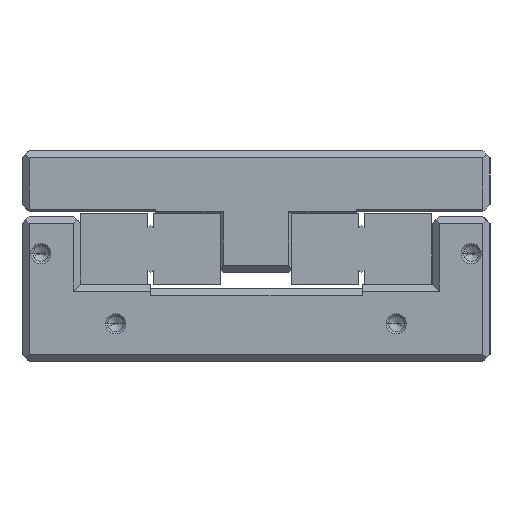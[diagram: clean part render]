
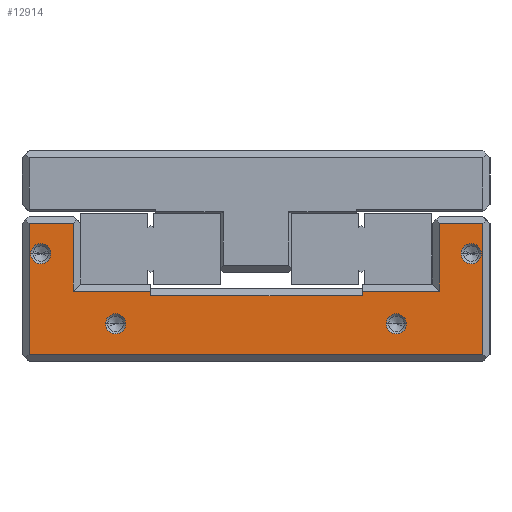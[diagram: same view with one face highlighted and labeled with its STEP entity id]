
A CAD part, left-side view. The second image highlights one B-rep face of the part: STEP entity #12914.
In plain terms, the highlighted planar face has unit normal (-1, 0, 0).
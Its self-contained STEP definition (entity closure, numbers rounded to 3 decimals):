
#9027=CARTESIAN_POINT('',(-155.,-46.,23.));
#9028=DIRECTION('',(1.,0.,0.));
#9029=DIRECTION('',(0.,-1.,0.));
#9030=AXIS2_PLACEMENT_3D('',#9027,#9028,#9029);
#9032=CARTESIAN_POINT('',(-155.,-46.,23.));
#9033=DIRECTION('',(1.,0.,0.));
#9034=DIRECTION('',(0.,1.,0.));
#9035=AXIS2_PLACEMENT_3D('',#9032,#9033,#9034);
#9037=CARTESIAN_POINT('',(-155.,-30.,8.));
#9038=DIRECTION('',(1.,0.,0.));
#9039=DIRECTION('',(0.,-1.,0.));
#9040=AXIS2_PLACEMENT_3D('',#9037,#9038,#9039);
#9042=CARTESIAN_POINT('',(-155.,-30.,8.));
#9043=DIRECTION('',(1.,0.,0.));
#9044=DIRECTION('',(0.,1.,0.));
#9045=AXIS2_PLACEMENT_3D('',#9042,#9043,#9044);
#9047=CARTESIAN_POINT('',(-155.,30.,8.));
#9048=DIRECTION('',(1.,0.,0.));
#9049=DIRECTION('',(0.,-1.,0.));
#9050=AXIS2_PLACEMENT_3D('',#9047,#9048,#9049);
#9052=CARTESIAN_POINT('',(-155.,30.,8.));
#9053=DIRECTION('',(1.,0.,0.));
#9054=DIRECTION('',(0.,1.,0.));
#9055=AXIS2_PLACEMENT_3D('',#9052,#9053,#9054);
#9057=CARTESIAN_POINT('',(-155.,46.,23.));
#9058=DIRECTION('',(1.,0.,0.));
#9059=DIRECTION('',(0.,1.,0.));
#9060=AXIS2_PLACEMENT_3D('',#9057,#9058,#9059);
#9062=CARTESIAN_POINT('',(-155.,46.,23.));
#9063=DIRECTION('',(1.,0.,0.));
#9064=DIRECTION('',(0.,-1.,0.));
#9065=AXIS2_PLACEMENT_3D('',#9062,#9063,#9064);
#9067=DIRECTION('',(0.,1.,0.));
#9068=VECTOR('',#9067,45.2);
#9069=CARTESIAN_POINT('',(-155.,-22.7,14.));
#9070=LINE('',#9069,#9068);
#9071=DIRECTION('',(0.,0.,1.));
#9072=VECTOR('',#9071,1.);
#9073=CARTESIAN_POINT('',(-155.,-22.7,14.));
#9074=LINE('',#9073,#9072);
#9075=DIRECTION('',(0.,1.,0.));
#9076=VECTOR('',#9075,16.5);
#9077=CARTESIAN_POINT('',(-155.,-39.2,15.));
#9078=LINE('',#9077,#9076);
#9079=DIRECTION('',(0.,0.,-1.));
#9080=VECTOR('',#9079,14.5);
#9081=CARTESIAN_POINT('',(-155.,-39.2,29.5));
#9082=LINE('',#9081,#9080);
#9083=DIRECTION('',(0.,-1.,0.));
#9084=VECTOR('',#9083,9.3);
#9085=CARTESIAN_POINT('',(-155.,-39.2,29.5));
#9086=LINE('',#9085,#9084);
#9087=DIRECTION('',(0.,0.,-1.));
#9088=VECTOR('',#9087,28.);
#9089=CARTESIAN_POINT('',(-155.,-48.5,29.5));
#9090=LINE('',#9089,#9088);
#9091=DIRECTION('',(0.,1.,0.));
#9092=VECTOR('',#9091,97.);
#9093=CARTESIAN_POINT('',(-155.,-48.5,1.5));
#9094=LINE('',#9093,#9092);
#9095=DIRECTION('',(0.,0.,-1.));
#9096=VECTOR('',#9095,28.);
#9097=CARTESIAN_POINT('',(-155.,48.5,29.5));
#9098=LINE('',#9097,#9096);
#9099=DIRECTION('',(0.,-1.,0.));
#9100=VECTOR('',#9099,9.5);
#9101=CARTESIAN_POINT('',(-155.,48.5,29.5));
#9102=LINE('',#9101,#9100);
#9103=DIRECTION('',(0.,0.,1.));
#9104=VECTOR('',#9103,14.5);
#9105=CARTESIAN_POINT('',(-155.,39.,15.));
#9106=LINE('',#9105,#9104);
#9107=DIRECTION('',(0.,1.,0.));
#9108=VECTOR('',#9107,16.5);
#9109=CARTESIAN_POINT('',(-155.,22.5,15.));
#9110=LINE('',#9109,#9108);
#9111=DIRECTION('',(0.,0.,-1.));
#9112=VECTOR('',#9111,1.);
#9113=CARTESIAN_POINT('',(-155.,22.5,15.));
#9114=LINE('',#9113,#9112);
#12030=CARTESIAN_POINT('',(-155.,-48.15,23.));
#12031=CARTESIAN_POINT('',(-155.,-43.85,23.));
#12032=VERTEX_POINT('',#12030);
#12033=VERTEX_POINT('',#12031);
#12038=CARTESIAN_POINT('',(-155.,-32.15,8.));
#12039=CARTESIAN_POINT('',(-155.,-27.85,8.));
#12040=VERTEX_POINT('',#12038);
#12041=VERTEX_POINT('',#12039);
#12046=CARTESIAN_POINT('',(-155.,27.85,8.));
#12047=CARTESIAN_POINT('',(-155.,32.15,8.));
#12048=VERTEX_POINT('',#12046);
#12049=VERTEX_POINT('',#12047);
#12054=CARTESIAN_POINT('',(-155.,48.15,23.));
#12055=CARTESIAN_POINT('',(-155.,43.85,23.));
#12056=VERTEX_POINT('',#12054);
#12057=VERTEX_POINT('',#12055);
#12118=CARTESIAN_POINT('',(-155.,-22.7,14.));
#12119=CARTESIAN_POINT('',(-155.,22.5,14.));
#12120=VERTEX_POINT('',#12118);
#12121=VERTEX_POINT('',#12119);
#12122=CARTESIAN_POINT('',(-155.,-22.7,15.));
#12123=VERTEX_POINT('',#12122);
#12124=CARTESIAN_POINT('',(-155.,22.5,15.));
#12125=VERTEX_POINT('',#12124);
#12126=CARTESIAN_POINT('',(-155.,-48.5,1.5));
#12127=CARTESIAN_POINT('',(-155.,48.5,1.5));
#12128=VERTEX_POINT('',#12126);
#12129=VERTEX_POINT('',#12127);
#12134=CARTESIAN_POINT('',(-155.,-39.2,29.5));
#12135=CARTESIAN_POINT('',(-155.,-48.5,29.5));
#12136=VERTEX_POINT('',#12134);
#12137=VERTEX_POINT('',#12135);
#12146=CARTESIAN_POINT('',(-155.,-39.2,15.));
#12147=VERTEX_POINT('',#12146);
#12150=CARTESIAN_POINT('',(-155.,39.,15.));
#12151=VERTEX_POINT('',#12150);
#12156=CARTESIAN_POINT('',(-155.,39.,29.5));
#12157=VERTEX_POINT('',#12156);
#12160=CARTESIAN_POINT('',(-155.,48.5,29.5));
#12161=VERTEX_POINT('',#12160);
#12860=CARTESIAN_POINT('',(-155.,50.,0.));
#12861=DIRECTION('',(-1.,0.,0.));
#12862=DIRECTION('',(0.,-1.,0.));
#12863=AXIS2_PLACEMENT_3D('',#12860,#12861,#12862);
#12864=PLANE('',#12863);
#12866=ORIENTED_EDGE('',*,*,#12865,.F.);
#12868=ORIENTED_EDGE('',*,*,#12867,.T.);
#12870=ORIENTED_EDGE('',*,*,#12869,.F.);
#12872=ORIENTED_EDGE('',*,*,#12871,.F.);
#12874=ORIENTED_EDGE('',*,*,#12873,.T.);
#12876=ORIENTED_EDGE('',*,*,#12875,.T.);
#12877=ORIENTED_EDGE('',*,*,#12846,.T.);
#12879=ORIENTED_EDGE('',*,*,#12878,.F.);
#12881=ORIENTED_EDGE('',*,*,#12880,.T.);
#12883=ORIENTED_EDGE('',*,*,#12882,.F.);
#12885=ORIENTED_EDGE('',*,*,#12884,.F.);
#12887=ORIENTED_EDGE('',*,*,#12886,.T.);
#12888=EDGE_LOOP('',(#12866,#12868,#12870,#12872,#12874,#12876,#12877,#12879,
#12881,#12883,#12885,#12887));
#12889=FACE_OUTER_BOUND('',#12888,.F.);
#12891=ORIENTED_EDGE('',*,*,#12890,.F.);
#12893=ORIENTED_EDGE('',*,*,#12892,.F.);
#12894=EDGE_LOOP('',(#12891,#12893));
#12895=FACE_BOUND('',#12894,.F.);
#12897=ORIENTED_EDGE('',*,*,#12896,.F.);
#12899=ORIENTED_EDGE('',*,*,#12898,.F.);
#12900=EDGE_LOOP('',(#12897,#12899));
#12901=FACE_BOUND('',#12900,.F.);
#12903=ORIENTED_EDGE('',*,*,#12902,.F.);
#12905=ORIENTED_EDGE('',*,*,#12904,.F.);
#12906=EDGE_LOOP('',(#12903,#12905));
#12907=FACE_BOUND('',#12906,.F.);
#12909=ORIENTED_EDGE('',*,*,#12908,.F.);
#12911=ORIENTED_EDGE('',*,*,#12910,.F.);
#12912=EDGE_LOOP('',(#12909,#12911));
#12913=FACE_BOUND('',#12912,.F.);
#12914=ADVANCED_FACE('',(#12889,#12895,#12901,#12907,#12913),#12864,.T.);
#9031=CIRCLE('',#9030,2.15);
#9036=CIRCLE('',#9035,2.15);
#9041=CIRCLE('',#9040,2.15);
#9046=CIRCLE('',#9045,2.15);
#9051=CIRCLE('',#9050,2.15);
#9056=CIRCLE('',#9055,2.15);
#9061=CIRCLE('',#9060,2.15);
#9066=CIRCLE('',#9065,2.15);
#12846=EDGE_CURVE('',#12128,#12129,#9094,.T.);
#12865=EDGE_CURVE('',#12120,#12121,#9070,.T.);
#12867=EDGE_CURVE('',#12120,#12123,#9074,.T.);
#12869=EDGE_CURVE('',#12147,#12123,#9078,.T.);
#12871=EDGE_CURVE('',#12136,#12147,#9082,.T.);
#12873=EDGE_CURVE('',#12136,#12137,#9086,.T.);
#12875=EDGE_CURVE('',#12137,#12128,#9090,.T.);
#12878=EDGE_CURVE('',#12161,#12129,#9098,.T.);
#12880=EDGE_CURVE('',#12161,#12157,#9102,.T.);
#12882=EDGE_CURVE('',#12151,#12157,#9106,.T.);
#12884=EDGE_CURVE('',#12125,#12151,#9110,.T.);
#12886=EDGE_CURVE('',#12125,#12121,#9114,.T.);
#12890=EDGE_CURVE('',#12040,#12041,#9041,.T.);
#12892=EDGE_CURVE('',#12041,#12040,#9046,.T.);
#12896=EDGE_CURVE('',#12048,#12049,#9051,.T.);
#12898=EDGE_CURVE('',#12049,#12048,#9056,.T.);
#12902=EDGE_CURVE('',#12056,#12057,#9061,.T.);
#12904=EDGE_CURVE('',#12057,#12056,#9066,.T.);
#12908=EDGE_CURVE('',#12032,#12033,#9031,.T.);
#12910=EDGE_CURVE('',#12033,#12032,#9036,.T.);
